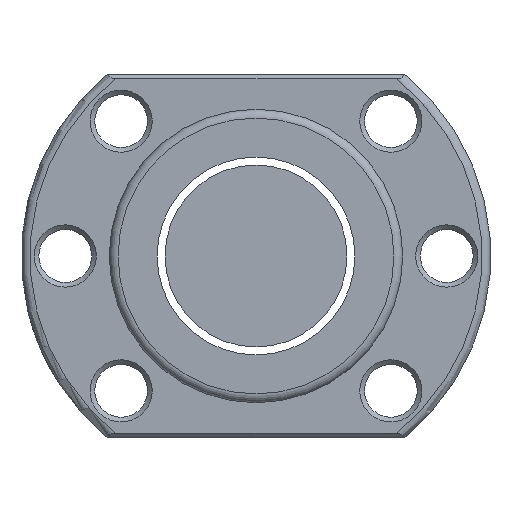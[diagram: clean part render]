
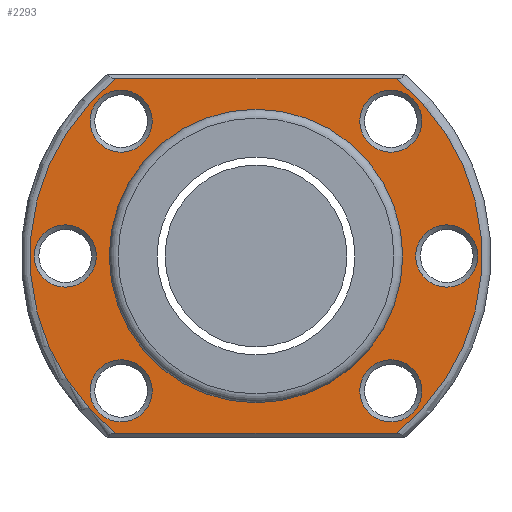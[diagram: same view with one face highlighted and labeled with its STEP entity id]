
A CAD part, left-side view. The second image highlights one B-rep face of the part: STEP entity #2293.
In plain terms, the highlighted planar face has unit normal (-1, 0, 0).
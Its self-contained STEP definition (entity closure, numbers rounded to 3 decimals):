
#29 = VERTEX_POINT ( 'NONE', #1788 ) ;
#36 = DIRECTION ( 'NONE',  ( 1., 0., 0. ) ) ;
#45 = VERTEX_POINT ( 'NONE', #3034 ) ;
#94 = CIRCLE ( 'NONE', #1907, 38.5 ) ;
#202 = CARTESIAN_POINT ( 'NONE',  ( -69., 0., 0. ) ) ;
#203 = VERTEX_POINT ( 'NONE', #2119 ) ;
#211 = CARTESIAN_POINT ( 'NONE',  ( -69., 40., 0. ) ) ;
#289 = DIRECTION ( 'NONE',  ( -1., 0., 0. ) ) ;
#303 = PLANE ( 'NONE',  #2489 ) ;
#305 = AXIS2_PLACEMENT_3D ( 'NONE', #793, #824, #1260 ) ;
#307 = VECTOR ( 'NONE', #1574, 1000. ) ;
#328 = CARTESIAN_POINT ( 'NONE',  ( -69., -22.981, -22.981 ) ) ;
#368 = CARTESIAN_POINT ( 'NONE',  ( -69., 23.879, -30.2 ) ) ;
#456 = EDGE_CURVE ( 'NONE', #2173, #2137, #2467, .T. ) ;
#462 = CARTESIAN_POINT ( 'NONE',  ( -69., 23.879, 30.2 ) ) ;
#466 = VECTOR ( 'NONE', #2202, 1000. ) ;
#476 = DIRECTION ( 'NONE',  ( 1., 0., 0. ) ) ;
#505 = ORIENTED_EDGE ( 'NONE', *, *, #1358, .T. ) ;
#533 = AXIS2_PLACEMENT_3D ( 'NONE', #3190, #476, #962 ) ;
#534 = CARTESIAN_POINT ( 'NONE',  ( -69., 0., -25. ) ) ;
#562 = DIRECTION ( 'NONE',  ( 0., 0., 1. ) ) ;
#564 = VERTEX_POINT ( 'NONE', #3020 ) ;
#616 = EDGE_LOOP ( 'NONE', ( #2617 ) ) ;
#681 = DIRECTION ( 'NONE',  ( -1., 0., 0. ) ) ;
#724 = AXIS2_PLACEMENT_3D ( 'NONE', #328, #36, #1024 ) ;
#756 = EDGE_CURVE ( 'NONE', #29, #29, #1848, .T. ) ;
#766 = EDGE_CURVE ( 'NONE', #2972, #2972, #2266, .T. ) ;
#774 = AXIS2_PLACEMENT_3D ( 'NONE', #3054, #1808, #2991 ) ;
#793 = CARTESIAN_POINT ( 'NONE',  ( -69., -22.981, 22.981 ) ) ;
#824 = DIRECTION ( 'NONE',  ( 1., 0., 0. ) ) ;
#869 = FACE_BOUND ( 'NONE', #2502, .T. ) ;
#895 = EDGE_LOOP ( 'NONE', ( #3137, #2959, #2733, #505 ) ) ;
#931 = AXIS2_PLACEMENT_3D ( 'NONE', #2086, #1344, #2810 ) ;
#962 = DIRECTION ( 'NONE',  ( 0., 0., 1. ) ) ;
#1020 = EDGE_CURVE ( 'NONE', #2019, #2019, #1333, .T. ) ;
#1024 = DIRECTION ( 'NONE',  ( 0., 0., 1. ) ) ;
#1031 = ORIENTED_EDGE ( 'NONE', *, *, #766, .T. ) ;
#1043 = CARTESIAN_POINT ( 'NONE',  ( -69., 0., 0. ) ) ;
#1072 = CARTESIAN_POINT ( 'NONE',  ( -69., 22.981, 28.281 ) ) ;
#1079 = EDGE_CURVE ( 'NONE', #45, #45, #1289, .T. ) ;
#1105 = FACE_BOUND ( 'NONE', #2283, .T. ) ;
#1199 = ORIENTED_EDGE ( 'NONE', *, *, #1020, .T. ) ;
#1207 = AXIS2_PLACEMENT_3D ( 'NONE', #1680, #2367, #2385 ) ;
#1246 = CARTESIAN_POINT ( 'NONE',  ( -69., 32.5, 5.3 ) ) ;
#1260 = DIRECTION ( 'NONE',  ( 0., 0., 1. ) ) ;
#1289 = CIRCLE ( 'NONE', #931, 5.3 ) ;
#1295 = EDGE_LOOP ( 'NONE', ( #2235 ) ) ;
#1320 = FACE_BOUND ( 'NONE', #2123, .T. ) ;
#1333 = CIRCLE ( 'NONE', #774, 5.3 ) ;
#1344 = DIRECTION ( 'NONE',  ( 1., 0., 0. ) ) ;
#1358 = EDGE_CURVE ( 'NONE', #203, #2975, #2542, .T. ) ;
#1380 = EDGE_CURVE ( 'NONE', #564, #564, #3215, .T. ) ;
#1522 = DIRECTION ( 'NONE',  ( 1., 0., 0. ) ) ;
#1574 = DIRECTION ( 'NONE',  ( 0., 1., 0. ) ) ;
#1593 = FACE_BOUND ( 'NONE', #2223, .T. ) ;
#1597 = CARTESIAN_POINT ( 'NONE',  ( -69., -32.5, 5.3 ) ) ;
#1610 = FACE_BOUND ( 'NONE', #1295, .T. ) ;
#1680 = CARTESIAN_POINT ( 'NONE',  ( -69., 0., 0. ) ) ;
#1681 = CARTESIAN_POINT ( 'NONE',  ( -69., 40., -30.2 ) ) ;
#1712 = ORIENTED_EDGE ( 'NONE', *, *, #3019, .T. ) ;
#1739 = DIRECTION ( 'NONE',  ( 0., 0., -1. ) ) ;
#1788 = CARTESIAN_POINT ( 'NONE',  ( -69., -22.981, 28.281 ) ) ;
#1808 = DIRECTION ( 'NONE',  ( 1., 0., 0. ) ) ;
#1848 = CIRCLE ( 'NONE', #305, 5.3 ) ;
#1851 = FACE_OUTER_BOUND ( 'NONE', #895, .T. ) ;
#1907 = AXIS2_PLACEMENT_3D ( 'NONE', #202, #289, #3017 ) ;
#1909 = CIRCLE ( 'NONE', #2063, 5.3 ) ;
#1928 = CIRCLE ( 'NONE', #533, 5.3 ) ;
#2002 = VERTEX_POINT ( 'NONE', #1597 ) ;
#2019 = VERTEX_POINT ( 'NONE', #1246 ) ;
#2063 = AXIS2_PLACEMENT_3D ( 'NONE', #2546, #3032, #562 ) ;
#2069 = EDGE_CURVE ( 'NONE', #2137, #203, #94, .T. ) ;
#2086 = CARTESIAN_POINT ( 'NONE',  ( -69., 22.981, -22.981 ) ) ;
#2098 = FACE_BOUND ( 'NONE', #2825, .T. ) ;
#2111 = AXIS2_PLACEMENT_3D ( 'NONE', #1043, #1522, #1739 ) ;
#2119 = CARTESIAN_POINT ( 'NONE',  ( -69., -23.879, 30.2 ) ) ;
#2123 = EDGE_LOOP ( 'NONE', ( #2878 ) ) ;
#2137 = VERTEX_POINT ( 'NONE', #2969 ) ;
#2173 = VERTEX_POINT ( 'NONE', #368 ) ;
#2202 = DIRECTION ( 'NONE',  ( 0., -1., 0. ) ) ;
#2223 = EDGE_LOOP ( 'NONE', ( #3069 ) ) ;
#2235 = ORIENTED_EDGE ( 'NONE', *, *, #1380, .T. ) ;
#2251 = EDGE_CURVE ( 'NONE', #2002, #2002, #1909, .T. ) ;
#2266 = CIRCLE ( 'NONE', #2111, 25. ) ;
#2283 = EDGE_LOOP ( 'NONE', ( #1712 ) ) ;
#2293 = ADVANCED_FACE ( 'NONE', ( #1610, #1320, #1593, #1105, #2098, #3096, #869, #1851 ), #303, .T. ) ;
#2367 = DIRECTION ( 'NONE',  ( -1., 0., 0. ) ) ;
#2385 = DIRECTION ( 'NONE',  ( 0., 0., 1. ) ) ;
#2467 = LINE ( 'NONE', #1681, #466 ) ;
#2489 = AXIS2_PLACEMENT_3D ( 'NONE', #211, #681, #2645 ) ;
#2502 = EDGE_LOOP ( 'NONE', ( #1031 ) ) ;
#2510 = CARTESIAN_POINT ( 'NONE',  ( -69., 40., 30.2 ) ) ;
#2542 = LINE ( 'NONE', #2510, #307 ) ;
#2546 = CARTESIAN_POINT ( 'NONE',  ( -69., -32.5, 0. ) ) ;
#2576 = EDGE_CURVE ( 'NONE', #2975, #2173, #2812, .T. ) ;
#2617 = ORIENTED_EDGE ( 'NONE', *, *, #1079, .T. ) ;
#2645 = DIRECTION ( 'NONE',  ( 0., 0., 1. ) ) ;
#2733 = ORIENTED_EDGE ( 'NONE', *, *, #2069, .T. ) ;
#2810 = DIRECTION ( 'NONE',  ( 0., 0., 1. ) ) ;
#2812 = CIRCLE ( 'NONE', #1207, 38.5 ) ;
#2825 = EDGE_LOOP ( 'NONE', ( #1199 ) ) ;
#2878 = ORIENTED_EDGE ( 'NONE', *, *, #2251, .T. ) ;
#2959 = ORIENTED_EDGE ( 'NONE', *, *, #456, .T. ) ;
#2969 = CARTESIAN_POINT ( 'NONE',  ( -69., -23.879, -30.2 ) ) ;
#2972 = VERTEX_POINT ( 'NONE', #534 ) ;
#2975 = VERTEX_POINT ( 'NONE', #462 ) ;
#2991 = DIRECTION ( 'NONE',  ( 0., 0., 1. ) ) ;
#3017 = DIRECTION ( 'NONE',  ( 0., 0., 1. ) ) ;
#3019 = EDGE_CURVE ( 'NONE', #3048, #3048, #1928, .T. ) ;
#3020 = CARTESIAN_POINT ( 'NONE',  ( -69., -22.981, -17.681 ) ) ;
#3032 = DIRECTION ( 'NONE',  ( 1., 0., 0. ) ) ;
#3034 = CARTESIAN_POINT ( 'NONE',  ( -69., 22.981, -17.681 ) ) ;
#3048 = VERTEX_POINT ( 'NONE', #1072 ) ;
#3054 = CARTESIAN_POINT ( 'NONE',  ( -69., 32.5, 0. ) ) ;
#3069 = ORIENTED_EDGE ( 'NONE', *, *, #756, .T. ) ;
#3096 = FACE_BOUND ( 'NONE', #616, .T. ) ;
#3137 = ORIENTED_EDGE ( 'NONE', *, *, #2576, .T. ) ;
#3190 = CARTESIAN_POINT ( 'NONE',  ( -69., 22.981, 22.981 ) ) ;
#3215 = CIRCLE ( 'NONE', #724, 5.3 ) ;
